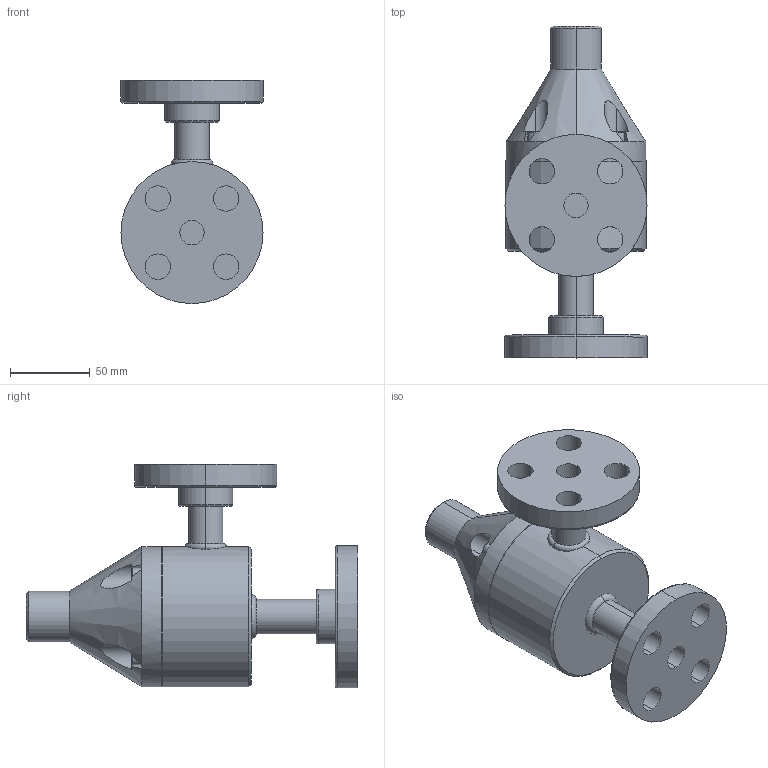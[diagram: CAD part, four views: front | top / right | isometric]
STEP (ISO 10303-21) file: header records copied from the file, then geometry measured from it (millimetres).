
FILE_DESCRIPTION (( 'STEP AP203' ), '1' );
FILE_NAME ('GBP0500_90-FLNG.STEP', '2016-02-12T10:28:16', ( '' ), ( '' ), 'SwSTEP 2.0', 'SolidWorks 2014', '' );
FILE_SCHEMA (( 'CONFIG_CONTROL_DESIGN' ));
Length unit declared in the file: inch
Products named in the file (2): GBP0500_90-FLNG
Bounding box: 88.9 x 207.65 x 139.7 mm (x, y, z)
Volume: 755557.6 mm3; surface area: 91087.7 mm2
Topology: 2 solids, 2 shells, 169 faces, 397 edges, 252 vertices
Faces by surface type: plane 79, cylinder 58, cone 18, torus 14
Entity records: 5362 total; most frequent: CARTESIAN_POINT 1172, DIRECTION 893, ORIENTED_EDGE 794, EDGE_CURVE 397, AXIS2_PLACEMENT_3D 343, VERTEX_POINT 252, VECTOR 207, LINE 207
